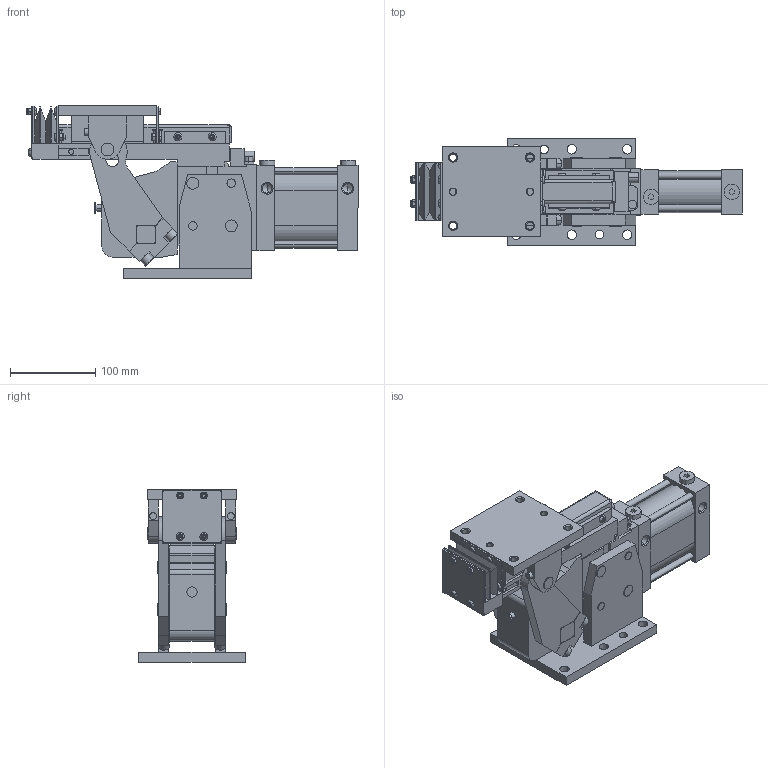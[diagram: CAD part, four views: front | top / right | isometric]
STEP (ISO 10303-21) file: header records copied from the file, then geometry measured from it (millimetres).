
FILE_DESCRIPTION (( 'STEP AP214' ), '1' );
FILE_NAME ('slcp63_90_xx_x_s3.STEP', '2019-09-19T12:50:04', ( '' ), ( '' ), 'SwSTEP 2.0', 'SolidWorks 2019', '' );
FILE_SCHEMA (( 'AUTOMOTIVE_DESIGN' ));
Length unit declared in the file: millimetre
Products named in the file (8): leva_slcp63; slcp63_90_xx_x_x; tappo cil G1_4 din908_rondella rame; riparo_binario_post_slcp63; piastra_superiore_slcp63; slcp63_90_xx_x_s3; blocchetto_VEP_0; soffietto_slcp63
Assembly tree (8 placements, depth 2):
  slcp63_90_xx_x_s3
    slcp63_90_xx_x_x
    piastra_superiore_slcp63
    leva_slcp63
    blocchetto_VEP_0
    tappo cil G1_4 din908_rondella rame  x2
    riparo_binario_post_slcp63
    soffietto_slcp63
Bounding box: 389 x 125 x 202.5 mm (x, y, z)
Volume: 2774900.4 mm3; surface area: 407723.8 mm2
Topology: 43 solids, 57 shells, 1609 faces, 3910 edges, 2403 vertices
Faces by surface type: plane 742, cone 418, cylinder 401, torus 48
Entity records: 59488 total; most frequent: CARTESIAN_POINT 9357, DIRECTION 8056, ORIENTED_EDGE 7568, EDGE_CURVE 3784, AXIS2_PLACEMENT_3D 2938, VERTEX_POINT 2383, LINE 2180, VECTOR 2180
